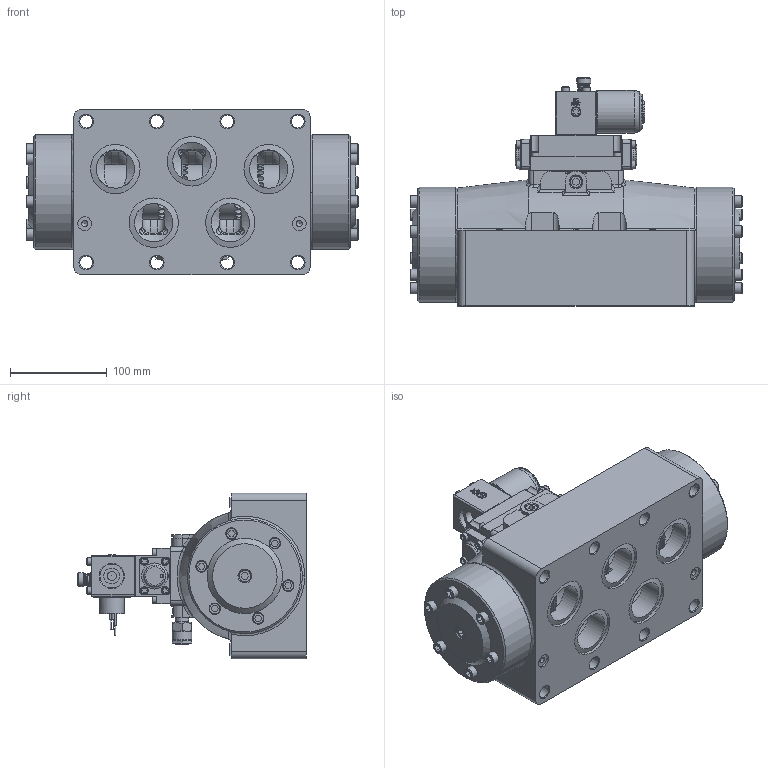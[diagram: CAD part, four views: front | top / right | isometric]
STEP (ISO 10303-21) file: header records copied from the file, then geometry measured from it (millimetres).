
FILE_DESCRIPTION(/* description */ (''),/* implementation_level */ '2;1');
FILE_NAME(/* name */ 'D:\Website Files\stp\Valves\Classic\SO\SO16PXOP.stp',/* time_stamp */ '2016-03-14T10:20:49-04:00',/* author */ ('RMcKenna'),/* organization */ (''),/* preprocessor_version */ 'ST-DEVELOPER v15.6',/* originating_system */ 'Autodesk Inventor 2015',/* authorisation */ '');
FILE_SCHEMA (('AUTOMOTIVE_DESIGN { 1 0 10303 214 3 1 1 }'));
Products named in the file (1): Part22
Bounding box: 343.84 x 236.47 x 171.45 mm (x, y, z)
Volume: 4660293.3 mm3; surface area: 588229.7 mm2
Topology: 3 solids, 64 shells, 2451 faces, 5933 edges, 3827 vertices
Faces by surface type: plane 1125, cylinder 513, cone 380, bspline 230, torus 198, sphere 5
Full cylindrical faces by diameter (mm): 1.168 x3, 2.261 x2, 2.54 x2, 2.778 x2, 3.048 x3, 3.175 x11, 3.302 x1, 3.683 x16, 3.912 x1, 4.366 x10, 4.369 x3, 4.763 x7, 4.826 x20, 5.156 x8, 5.159 x9, 5.944 x3, 6.35 x2, 6.401 x12, 6.629 x1, 6.731 x2, 7.925 x2, 7.938 x42, 7.95 x2, 8.731 x12, 9.462 x2, 9.474 x2, 9.525 x6, 10.719 x5, 11.43 x1, 11.633 x1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
Entity records: 77591 total; most frequent: CARTESIAN_POINT 24647, DIRECTION 10096, ORIENTED_EDGE 9944, EDGE_CURVE 4972, AXIS2_PLACEMENT_3D 3906, VERTEX_POINT 3534, EDGE_LOOP 3454, FACE_OUTER_BOUND 2450
